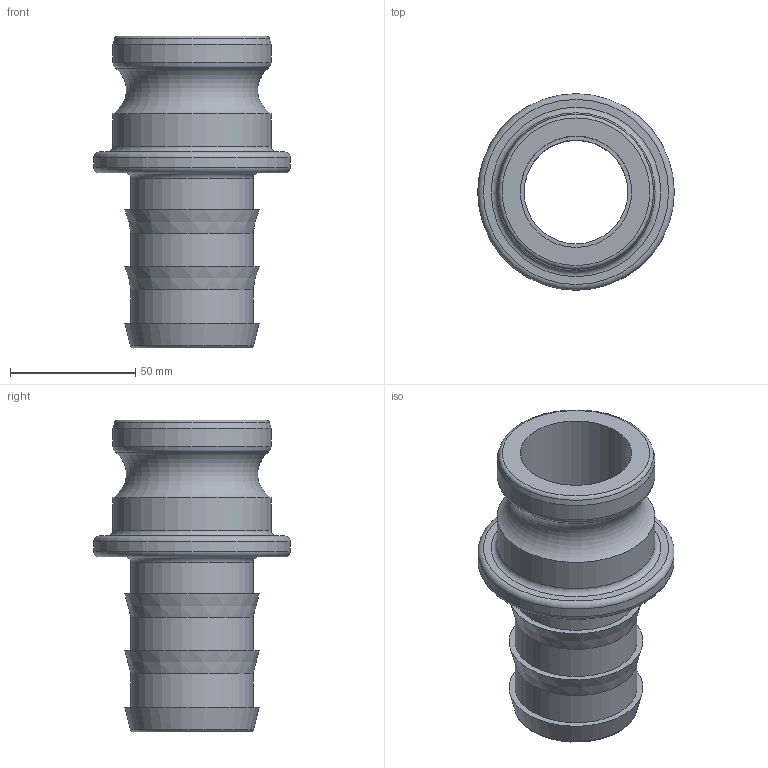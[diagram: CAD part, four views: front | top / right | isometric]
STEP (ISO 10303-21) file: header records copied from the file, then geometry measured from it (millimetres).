
FILE_DESCRIPTION(/* description */ ('Alibre Inc.'),/* implementation_level */ '2;1');
FILE_NAME(/* name */ 'export0',/* time_stamp */ '2016-03-04T11:34:16-05:00',/* author */ (''),/* organization */ (''),/* preprocessor_version */ 'ST-DEVELOPER v14',/* originating_system */ 'Alibre',/* authorisation */ '');
FILE_SCHEMA (('CONFIG_CONTROL_DESIGN'));
Length unit declared in the file: centimetre
Products named in the file (1): ID_1
Bounding box: 78.49 x 78.49 x 124.46 mm (x, y, z)
Volume: 130130.6 mm3; surface area: 46092.8 mm2
Topology: 1 solids, 1 shells, 29 faces, 53 edges, 32 vertices
Faces by surface type: torus 9, plane 8, cylinder 8, cone 4
Full cylindrical faces by diameter (mm): 41.402 x1, 44.45 x1, 48.768 x3, 63.094 x2, 78.486 x1
Entity records: 652 total; most frequent: DIRECTION 98, CARTESIAN_POINT 86, ORIENTED_EDGE 58, EDGE_LOOP 58, FACE_BOUND 58, AXIS2_PLACEMENT_3D 57, VERTEX_POINT 29, CIRCLE 29
